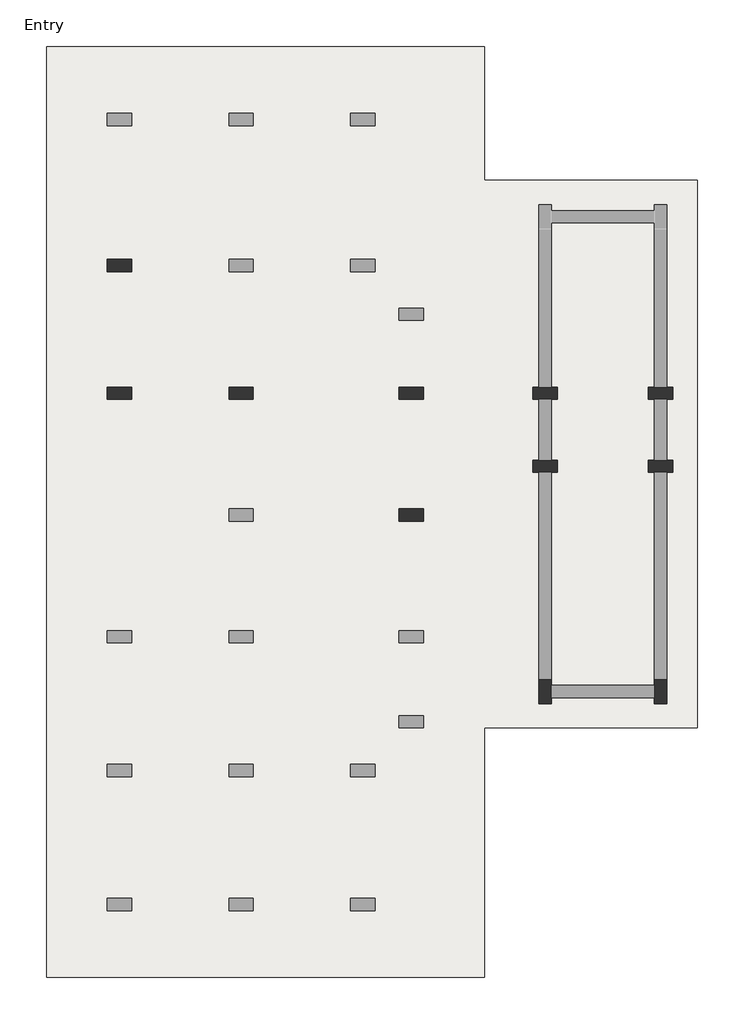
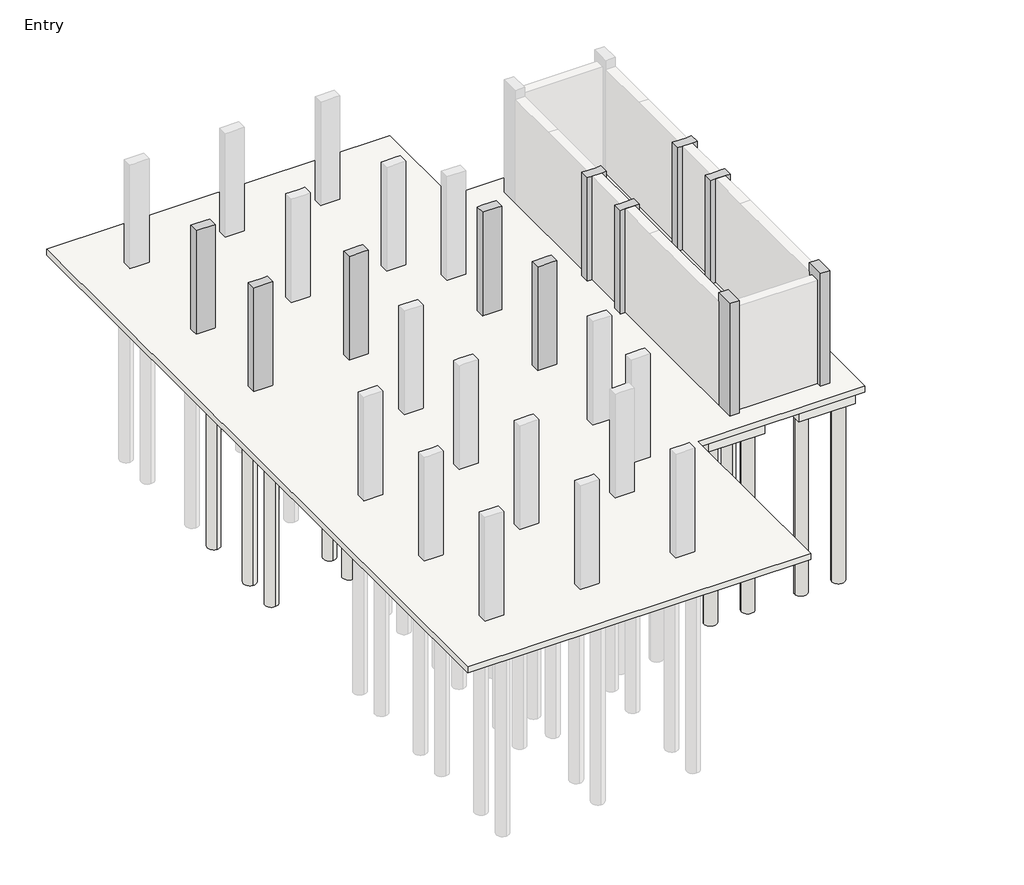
# One storey, part 2 of 3: 32 slabs, 13 columns, 4 footings.
"""IFC4 building model written with IfcOpenShell, lengths in millimetres."""

from ifc_helpers import new_model, si_unit, point, frame, frame_2d, origin, place, context, project, spatial, polyline, circle_curve, trimmed, segment, composite_curve, outline, extrude, faceted_brep, element, save

model = new_model("IFC4")

# Units and contexts
model_context = context("Model", 3, world=origin())
ifc_project = project(units=[si_unit("LENGTHUNIT", "METRE", prefix="MILLI")], contexts=[model_context])

# Site, building, storey
site = spatial("IfcSite", under=ifc_project)
building = spatial("IfcBuilding", under=site)
storey = spatial("IfcBuildingStorey", under=building, Name="Entry", Elevation=0.0)

# Columns
placement = place(None, origin())
element("IfcColumn", 1, ObjectType="Concrete-Rectangular-Column : 12 x 24", at=placement, inside=storey, context=model_context, shape_type="Brep", body=[
    faceted_brep([(-15677.5554735, 10989.3867088, 0.0), (-15067.9554735, 10989.3867088, 0.0), (-15067.9554735, 10684.5867088, 0.0), (-15677.5554735, 10684.5867088, 0.0), (-15677.5554735, 10989.3867088, 3505.2), (-15525.1554735, 10989.3867088, 3505.2), (-15220.3554735, 10989.3867088, 3505.2), (-15067.9554735, 10989.3867088, 3505.2), (-15067.9554735, 10989.3867088, 2895.6), (-15067.9554735, 10684.5867088, 3505.2), (-15067.9554735, 10684.5867088, 2895.6), (-15220.3554735, 10684.5867088, 3505.2), (-15525.1554735, 10684.5867088, 3505.2), (-15677.5554735, 10684.5867088, 3505.2)], [[[0, 1, 2, 3]], [[4, 5, 6, 7, 8, 1, 0]], [[7, 9, 10, 2, 1, 8]], [[9, 11, 12, 13, 3, 2, 10]], [[13, 4, 0, 3]], [[4, 13, 12, 11, 9, 7, 6, 5]]]),
])
element("IfcColumn", 2, ObjectType="Concrete-Rectangular-Column : 12 x 24", at=placement, inside=storey, context=model_context, shape_type="Brep", body=[
    faceted_brep([(-8362.3554735, 7788.9867088, 0.0), (-7752.7554735, 7788.9867088, 0.0), (-7752.7554735, 7484.1867088, 0.0), (-8362.3554735, 7484.1867088, 0.0), (-8362.3554735, 7788.9867088, 3505.2), (-8209.9554735, 7788.9867088, 3505.2), (-7905.1554735, 7788.9867088, 3505.2), (-7752.7554735, 7788.9867088, 3505.2), (-7752.7554735, 7788.9867088, 2895.6), (-8362.3554735, 7788.9867088, 2895.6), (-7752.7554735, 7484.1867088, 3505.2), (-7752.7554735, 7484.1867088, 2895.6), (-7905.1554735, 7484.1867088, 3505.2), (-8209.9554735, 7484.1867088, 3505.2), (-8362.3554735, 7484.1867088, 3505.2), (-8362.3554735, 7484.1867088, 2895.6)], [[[0, 1, 2, 3]], [[4, 5, 6, 7, 8, 1, 0, 9]], [[7, 10, 11, 2, 1, 8]], [[10, 12, 13, 14, 15, 3, 2, 11]], [[14, 4, 9, 0, 3, 15]], [[4, 14, 13, 12, 10, 7, 6, 5]]]),
])
element("IfcColumn", 3, ObjectType="Concrete-Rectangular-Column : 12 x 24", at=placement, inside=storey, context=model_context, shape_type="Brep", body=[
    faceted_brep([(-15677.5554735, 7788.9867088, 0.0), (-15067.9554735, 7788.9867088, 0.0), (-15067.9554735, 7484.1867088, 0.0), (-15677.5554735, 7484.1867088, 0.0), (-15677.5554735, 7788.9867088, 3505.2), (-15525.1554735, 7788.9867088, 3505.2), (-15220.3554735, 7788.9867088, 3505.2), (-15067.9554735, 7788.9867088, 3505.2), (-15067.9554735, 7788.9867088, 2895.6), (-15067.9554735, 7484.1867088, 3505.2), (-15067.9554735, 7484.1867088, 2895.6), (-15677.5554735, 7484.1867088, 3505.2)], [[[0, 1, 2, 3]], [[4, 5, 6, 7, 8, 1, 0]], [[7, 9, 10, 2, 1, 8]], [[9, 11, 3, 2, 10]], [[11, 4, 0, 3]], [[4, 11, 9, 7, 6, 5]]]),
])
element("IfcColumn", 4, ObjectType="Concrete-Rectangular-Column : 12 x 24", at=placement, inside=storey, context=model_context, shape_type="Brep", body=[
    faceted_brep([(-12629.5554735, 7788.9867088, 0.0), (-12019.9554735, 7788.9867088, 0.0), (-12019.9554735, 7484.1867088, 0.0), (-12629.5554735, 7484.1867088, 0.0), (-12629.5554735, 7788.9867088, 3505.2), (-12477.1554735, 7788.9867088, 3505.2), (-12172.3554735, 7788.9867088, 3505.2), (-12019.9554735, 7788.9867088, 3505.2), (-12019.9554735, 7788.9867088, 2895.6), (-12629.5554735, 7788.9867088, 2895.6), (-12019.9554735, 7484.1867088, 3505.2), (-12019.9554735, 7484.1867088, 2895.6), (-12172.3554735, 7484.1867088, 3505.2), (-12477.1554735, 7484.1867088, 3505.2), (-12629.5554735, 7484.1867088, 3505.2), (-12629.5554735, 7484.1867088, 2895.6)], [[[0, 1, 2, 3]], [[4, 5, 6, 7, 8, 1, 0, 9]], [[7, 10, 11, 2, 1, 8]], [[10, 12, 13, 14, 15, 3, 2, 11]], [[14, 4, 9, 0, 3, 15]], [[4, 14, 13, 12, 10, 7, 6, 5]]]),
])
element("IfcColumn", 5, ObjectType="Concrete-Rectangular-Column : 12 x 24", at=placement, inside=storey, context=model_context, shape_type="Brep", body=[
    faceted_brep([(-8362.3554735, 4740.9867088, 0.0), (-7752.7554735, 4740.9867088, 0.0), (-7752.7554735, 4436.1867088, 0.0), (-8362.3554735, 4436.1867088, 0.0), (-8362.3554735, 4740.9867088, 3505.2), (-8209.9554735, 4740.9867088, 3505.2), (-7905.1554735, 4740.9867088, 3505.2), (-7752.7554735, 4740.9867088, 3505.2), (-8362.3554735, 4740.9867088, 2895.6), (-7752.7554735, 4436.1867088, 3505.2), (-7905.1554735, 4436.1867088, 3505.2), (-8209.9554735, 4436.1867088, 3505.2), (-8362.3554735, 4436.1867088, 3505.2), (-8362.3554735, 4436.1867088, 2895.6)], [[[0, 1, 2, 3]], [[4, 5, 6, 7, 1, 0, 8]], [[7, 9, 2, 1]], [[9, 10, 11, 12, 13, 3, 2]], [[12, 4, 8, 0, 3, 13]], [[4, 12, 11, 10, 9, 7, 6, 5]]]),
])
element("IfcColumn", 6, ObjectType="Concrete-Rectangular-Column : 12 x 24", at=placement, inside=storey, context=model_context, shape_type="Brep", body=[
    faceted_brep([(-5009.5554735, 7788.9867088, 0.0), (-4857.1554735, 7788.9867088, 0.0), (-4552.3554735, 7788.9867088, 0.0), (-4399.9554735, 7788.9867088, 0.0), (-4399.9554735, 7484.1867088, 0.0), (-4552.3554735, 7484.1867088, 0.0), (-4857.1554735, 7484.1867088, 0.0), (-5009.5554735, 7484.1867088, 0.0), (-5009.5554735, 7788.9867088, 3505.2), (-4857.1554735, 7788.9867088, 3505.2), (-4552.3554735, 7788.9867088, 3505.2), (-4399.9554735, 7788.9867088, 3505.2), (-4399.9554735, 7484.1867088, 3505.2), (-4552.3554735, 7484.1867088, 3505.2), (-4857.1554735, 7484.1867088, 3505.2), (-5009.5554735, 7484.1867088, 3505.2)], [[[0, 1, 2, 3, 4, 5, 6, 7]], [[3, 2, 1, 0, 8, 9, 10, 11]], [[4, 3, 11, 12]], [[7, 6, 5, 4, 12, 13, 14, 15]], [[0, 7, 15, 8]], [[11, 10, 9, 8, 15, 14, 13, 12]]]),
])
element("IfcColumn", 7, ObjectType="Concrete-Rectangular-Column : 12 x 24", at=placement, inside=storey, context=model_context, shape_type="Brep", body=[
    faceted_brep([(-4399.9554735, 5655.3867088, 0.0), (-4552.3554735, 5655.3867088, 0.0), (-4857.1554735, 5655.3867088, 0.0), (-5009.5554735, 5655.3867088, 0.0), (-5009.5554735, 5960.1867088, 0.0), (-4857.1554735, 5960.1867088, 0.0), (-4552.3554735, 5960.1867088, 0.0), (-4399.9554735, 5960.1867088, 0.0), (-4399.9554735, 5655.3867088, 3505.2), (-4552.3554735, 5655.3867088, 3505.2), (-4857.1554735, 5655.3867088, 3505.2), (-5009.5554735, 5655.3867088, 3505.2), (-5009.5554735, 5960.1867088, 3505.2), (-4857.1554735, 5960.1867088, 3505.2), (-4552.3554735, 5960.1867088, 3505.2), (-4399.9554735, 5960.1867088, 3505.2)], [[[0, 1, 2, 3, 4, 5, 6, 7]], [[3, 2, 1, 0, 8, 9, 10, 11]], [[4, 3, 11, 12]], [[7, 6, 5, 4, 12, 13, 14, 15]], [[0, 7, 15, 8]], [[11, 10, 9, 8, 15, 14, 13, 12]]]),
])
element("IfcColumn", 8, ObjectType="Concrete-Rectangular-Column : 12 x 24", at=placement, inside=storey, context=model_context, shape_type="Brep", body=[
    faceted_brep([(-4552.3554735, 473.7867088, 0.0), (-4552.3554735, 321.3867088, 0.0), (-4552.3554735, 16.5867088, 0.0), (-4552.3554735, -135.8132912, 0.0), (-4857.1554735, -135.8132912, 0.0), (-4857.1554735, 473.7867088, 0.0), (-4552.3554735, 473.7867088, 3810.0), (-4552.3554735, -135.8132912, 3810.0), (-4552.3554735, 473.7867088, 3505.2), (-4857.1554735, -135.8132912, 3810.0), (-4857.1554735, 473.7867088, 3810.0), (-4857.1554735, 473.7867088, 3505.2)], [[[0, 1, 2, 3, 4, 5]], [[6, 7, 3, 2, 1, 0, 8]], [[7, 9, 4, 3]], [[9, 10, 11, 5, 4]], [[10, 6, 8, 0, 5, 11]], [[6, 10, 9, 7]]]),
])
element("IfcColumn", 9, ObjectType="Concrete-Rectangular-Column : 12 x 24", at=placement, inside=storey, context=model_context, shape_type="Brep", body=[
    faceted_brep([(-1656.7554735, 473.7867088, 0.0), (-1656.7554735, -135.8132912, 0.0), (-1961.5554735, -135.8132912, 0.0), (-1961.5554735, 16.5867088, 0.0), (-1961.5554735, 321.3867088, 0.0), (-1961.5554735, 473.7867088, 0.0), (-1656.7554735, 473.7867088, 3810.0), (-1656.7554735, -135.8132912, 3810.0), (-1656.7554735, 473.7867088, 3505.2), (-1961.5554735, -135.8132912, 3810.0), (-1961.5554735, 473.7867088, 3810.0), (-1961.5554735, 473.7867088, 3505.2)], [[[0, 1, 2, 3, 4, 5]], [[6, 7, 1, 0, 8]], [[7, 9, 2, 1]], [[9, 10, 11, 5, 4, 3, 2]], [[10, 6, 8, 0, 5, 11]], [[6, 10, 9, 7]]]),
])
element("IfcColumn", 10, ObjectType="Concrete-Rectangular-Column : 12 x 24", at=placement, inside=storey, context=model_context, shape_type="Brep", body=[
    faceted_brep([(-2113.9554735, 7788.9867088, 0.0), (-1961.5554735, 7788.9867088, 0.0), (-1656.7554735, 7788.9867088, 0.0), (-1504.3554735, 7788.9867088, 0.0), (-1504.3554735, 7484.1867088, 0.0), (-1656.7554735, 7484.1867088, 0.0), (-1961.5554735, 7484.1867088, 0.0), (-2113.9554735, 7484.1867088, 0.0), (-2113.9554735, 7788.9867088, 3505.2), (-1961.5554735, 7788.9867088, 3505.2), (-1656.7554735, 7788.9867088, 3505.2), (-1504.3554735, 7788.9867088, 3505.2), (-1504.3554735, 7484.1867088, 3505.2), (-1656.7554735, 7484.1867088, 3505.2), (-1961.5554735, 7484.1867088, 3505.2), (-2113.9554735, 7484.1867088, 3505.2)], [[[0, 1, 2, 3, 4, 5, 6, 7]], [[3, 2, 1, 0, 8, 9, 10, 11]], [[4, 3, 11, 12]], [[7, 6, 5, 4, 12, 13, 14, 15]], [[0, 7, 15, 8]], [[11, 10, 9, 8, 15, 14, 13, 12]]]),
])
element("IfcColumn", 11, ObjectType="Concrete-Rectangular-Column : 12 x 24", at=placement, inside=storey, context=model_context, shape_type="Brep", body=[
    faceted_brep([(-1504.3554735, 5655.3867088, 0.0), (-1656.7554735, 5655.3867088, 0.0), (-1961.5554735, 5655.3867088, 0.0), (-2113.9554735, 5655.3867088, 0.0), (-2113.9554735, 5960.1867088, 0.0), (-1961.5554735, 5960.1867088, 0.0), (-1656.7554735, 5960.1867088, 0.0), (-1504.3554735, 5960.1867088, 0.0), (-1504.3554735, 5655.3867088, 3505.2), (-1656.7554735, 5655.3867088, 3505.2), (-1961.5554735, 5655.3867088, 3505.2), (-2113.9554735, 5655.3867088, 3505.2), (-2113.9554735, 5960.1867088, 3505.2), (-1961.5554735, 5960.1867088, 3505.2), (-1656.7554735, 5960.1867088, 3505.2), (-1504.3554735, 5960.1867088, 3505.2)], [[[0, 1, 2, 3, 4, 5, 6, 7]], [[3, 2, 1, 0, 8, 9, 10, 11]], [[4, 3, 11, 12]], [[7, 6, 5, 4, 12, 13, 14, 15]], [[0, 7, 15, 8]], [[11, 10, 9, 8, 15, 14, 13, 12]]]),
])
element("IfcColumn", 12, ObjectType="Concrete-Rectangular-Column : 12 x 24", at=placement, inside=storey, context=model_context, shape_type="Brep", body=[
    faceted_brep([(-8362.3554735, 7788.9867088, 0.0), (-7752.7554735, 7788.9867088, 0.0), (-7752.7554735, 7484.1867088, 0.0), (-8362.3554735, 7484.1867088, 0.0), (-8362.3554735, 7788.9867088, 3505.2), (-8209.9554735, 7788.9867088, 3505.2), (-7905.1554735, 7788.9867088, 3505.2), (-7752.7554735, 7788.9867088, 3505.2), (-7752.7554735, 7788.9867088, 2895.6), (-8362.3554735, 7788.9867088, 2895.6), (-7752.7554735, 7484.1867088, 3505.2), (-7752.7554735, 7484.1867088, 2895.6), (-7905.1554735, 7484.1867088, 3505.2), (-8209.9554735, 7484.1867088, 3505.2), (-8362.3554735, 7484.1867088, 3505.2), (-8362.3554735, 7484.1867088, 2895.6)], [[[0, 1, 2, 3]], [[4, 5, 6, 7, 8, 1, 0, 9]], [[7, 10, 11, 2, 1, 8]], [[10, 12, 13, 14, 15, 3, 2, 11]], [[14, 4, 9, 0, 3, 15]], [[4, 14, 13, 12, 10, 7, 6, 5]]]),
])
element("IfcColumn", 13, ObjectType="Concrete-Rectangular-Column : 12 x 24", at=placement, inside=storey, context=model_context, shape_type="Brep", body=[
    faceted_brep([(-12629.5554735, 7788.9867088, 0.0), (-12019.9554735, 7788.9867088, 0.0), (-12019.9554735, 7484.1867088, 0.0), (-12629.5554735, 7484.1867088, 0.0), (-12629.5554735, 7788.9867088, 3505.2), (-12477.1554735, 7788.9867088, 3505.2), (-12172.3554735, 7788.9867088, 3505.2), (-12019.9554735, 7788.9867088, 3505.2), (-12019.9554735, 7788.9867088, 2895.6), (-12629.5554735, 7788.9867088, 2895.6), (-12019.9554735, 7484.1867088, 3505.2), (-12019.9554735, 7484.1867088, 2895.6), (-12172.3554735, 7484.1867088, 3505.2), (-12477.1554735, 7484.1867088, 3505.2), (-12629.5554735, 7484.1867088, 3505.2), (-12629.5554735, 7484.1867088, 2895.6)], [[[0, 1, 2, 3]], [[4, 5, 6, 7, 8, 1, 0, 9]], [[7, 10, 11, 2, 1, 8]], [[10, 12, 13, 14, 15, 3, 2, 11]], [[14, 4, 9, 0, 3, 15]], [[4, 14, 13, 12, 10, 7, 6, 5]]]),
])

# Footings
element("IfcFooting", 14, ObjectType="Bearing Footing - 36\" x 12\"", at=placement, inside=storey, context=model_context, shape_type="Brep", body=[
    faceted_brep([(-1351.9554735, 5655.3867088, -304.8), (-1402.7554735, 5655.3867088, -304.8), (-1402.7554735, 5655.3867088, -203.2), (-1351.9554735, 5655.3867088, -203.2), (-2215.5554735, 5655.3867088, -304.8), (-2266.3554735, 5655.3867088, -304.8), (-2266.3554735, 5655.3867088, -203.2), (-2215.5554735, 5655.3867088, -203.2), (-2266.3554735, 626.1867088, -304.8), (-2266.3554735, 575.3867088, -304.8), (-2266.3554735, 575.3867088, -203.2), (-2266.3554735, 626.1867088, -203.2), (-1351.9554735, 575.3867088, -304.8), (-2215.5554735, 4906.0867088, -304.8), (-1402.7554735, 4906.0867088, -304.8), (-1351.9554735, 575.3867088, -203.2), (-1402.7554735, 4906.0867088, -203.2), (-2215.5554735, 4906.0867088, -203.2)], [[[0, 1, 2, 3]], [[4, 5, 6, 7]], [[5, 8, 9, 10, 11, 6]], [[1, 0, 12, 9, 8, 5, 4, 13, 14]], [[12, 0, 3, 15]], [[1, 14, 16, 2]], [[13, 4, 7, 17]], [[14, 13, 17, 16]], [[9, 12, 15, 10]], [[7, 6, 11, 10, 15, 3, 2, 16, 17]]]),
])
element("IfcFooting", 15, ObjectType="Bearing Footing - 36\" x 12\"", at=placement, inside=storey, context=model_context, shape_type="Brep", body=[
    faceted_brep([(-4552.3554735, -237.4132912, -304.8), (-4552.3554735, -288.2132912, -304.8), (-4552.3554735, -288.2132912, -203.2), (-4552.3554735, -237.4132912, -203.2), (-4552.3554735, 626.1867088, -304.8), (-4552.3554735, 575.3867088, -304.8), (-4552.3554735, 575.3867088, -203.2), (-4552.3554735, 626.1867088, -203.2), (-1961.5554735, -288.2132912, -304.8), (-1961.5554735, -237.4132912, -304.8), (-1961.5554735, -237.4132912, -203.2), (-1961.5554735, -288.2132912, -203.2), (-2266.3554735, 626.1867088, -304.8), (-4247.5554735, 626.1867088, -304.8), (-4247.5554735, 626.1867088, -203.2), (-2266.3554735, 626.1867088, -203.2), (-3803.0554735, -237.4132912, -304.8), (-3803.0554735, 575.3867088, -304.8), (-2266.3554735, 575.3867088, -304.8), (-2710.8554735, 575.3867088, -304.8), (-2710.8554735, -237.4132912, -304.8), (-3803.0554735, 575.3867088, -203.2), (-3803.0554735, -237.4132912, -203.2), (-2266.3554735, 575.3867088, -203.2), (-2710.8554735, 575.3867088, -203.2), (-2710.8554735, -237.4132912, -203.2)], [[[0, 1, 2, 3]], [[4, 5, 6, 7]], [[8, 9, 10, 11]], [[12, 13, 4, 7, 14, 15]], [[8, 1, 0, 16, 17, 5, 4, 13, 12, 18, 19, 20, 9]], [[1, 8, 11, 2]], [[5, 17, 21, 6]], [[16, 0, 3, 22]], [[17, 16, 22, 21]], [[19, 18, 23, 24]], [[20, 19, 24, 25]], [[9, 20, 25, 10]], [[18, 12, 15, 23]], [[7, 6, 21, 22, 3, 2, 11, 10, 25, 24, 23, 15, 14]]]),
])
element("IfcFooting", 16, ObjectType="Bearing Footing - 36\" x 12\"", at=placement, inside=storey, context=model_context, shape_type="SweptSolid", body=[
    extrude(outline(polyline([(-4298.3554735, 5655.3867088), (-4247.5554735, 5655.3867088), (-4247.5554735, 626.1867088), (-4552.3554735, 626.1867088), (-4552.3554735, 575.3867088), (-5161.9554735, 575.3867088), (-5161.9554735, 5655.3867088), (-5111.1554735, 5655.3867088), (-5111.1554735, 4906.0867088), (-4298.3554735, 4906.0867088), (-4298.3554735, 5655.3867088)])), frame((0.0, 0.0, -304.8), z_axis=(0.0, 0.0, 1.0), x_axis=(1.0, 0.0, 0.0)), (0.0, 0.0, 1.0), 101.6),
])
element("IfcFooting", 17, ObjectType="Bearing Footing - 36\" x 12\"", at=placement, inside=storey, context=model_context, shape_type="SweptSolid", body=[
    extrude(outline(polyline([(-1351.9554735, 7484.1867088), (-1351.9554735, 5960.1867088), (-1402.7554735, 5960.1867088), (-1402.7554735, 6709.4867088), (-2215.5554735, 6709.4867088), (-2215.5554735, 5960.1867088), (-2266.3554735, 5960.1867088), (-2266.3554735, 7484.1867088), (-2215.5554735, 7484.1867088), (-2215.5554735, 6734.8867088), (-1402.7554735, 6734.8867088), (-1402.7554735, 7484.1867088), (-1351.9554735, 7484.1867088)])), frame((0.0, 0.0, -304.8), z_axis=(0.0, 0.0, 1.0), x_axis=(1.0, 0.0, 0.0)), (0.0, 0.0, 1.0), 101.6),
])

# Slabs
element("IfcSlab", 18, ObjectType="8\" Foundation Slab", at=placement, inside=storey, context=model_context, shape_type="SweptSolid", body=[
    extrude(outline(polyline([(-6228.7554735, 16323.3867088), (-6228.7554735, 12970.5867088), (-894.7554735, 12970.5867088), (-894.7554735, -745.4132912), (-6228.7554735, -745.4132912), (-6228.7554735, -6993.8132912), (-17201.5554735, -6993.8132912), (-17201.5554735, 16323.3867088), (-6228.7554735, 16323.3867088)])), frame((0.0, 0.0, -203.2), z_axis=(0.0, 0.0, 1.0), x_axis=(1.0, 0.0, 0.0)), (0.0, 0.0, 1.0), 203.2),
])
element("IfcSlab", 19, ObjectType="Pile Cap-2 Pile : 31\"x61\"x35\"", at=placement, inside=storey, context=model_context, shape_type="SweptSolid", body=[
    extrude(outline(polyline([(-15779.1554735, 11738.6867088), (-14966.3554735, 11738.6867088), (-14966.3554735, 9935.2867088), (-15779.1554735, 9935.2867088), (-15779.1554735, 11738.6867088)])), frame((0.0, 0.0, -889.0), z_axis=(0.0, 0.0, 1.0), x_axis=(1.0, 0.0, 0.0)), (0.0, 0.0, 1.0), 685.8),
])
element("IfcSlab", 20, ObjectType="Pile Cap-2 Pile : 31\"x61\"x35\"", at=placement, inside=storey, context=model_context, shape_type="SweptSolid", body=[
    extrude(outline(polyline([(-15779.1554735, 8538.2867088), (-14966.3554735, 8538.2867088), (-14966.3554735, 6734.8867088), (-15779.1554735, 6734.8867088), (-15779.1554735, 8538.2867088)])), frame((0.0, 0.0, -889.0), z_axis=(0.0, 0.0, 1.0), x_axis=(1.0, 0.0, 0.0)), (0.0, 0.0, 1.0), 685.8),
])
element("IfcSlab", 21, ObjectType="Pile Cap-2 Pile : 31\"x61\"x35\"", at=placement, inside=storey, context=model_context, shape_type="SweptSolid", body=[
    extrude(outline(polyline([(-8463.9554735, 5490.2867088), (-7651.1554735, 5490.2867088), (-7651.1554735, 3686.8867088), (-8463.9554735, 3686.8867088), (-8463.9554735, 5490.2867088)])), frame((0.0, 0.0, -889.0), z_axis=(0.0, 0.0, 1.0), x_axis=(1.0, 0.0, 0.0)), (0.0, 0.0, 1.0), 685.8),
])
element("IfcSlab", 22, ObjectType="Pile Cap-2 Pile : 31\"x61\"x35\"", at=placement, inside=storey, context=model_context, shape_type="SweptSolid", body=[
    extrude(outline(polyline([(-8463.9554735, 8538.2867088), (-7651.1554735, 8538.2867088), (-7651.1554735, 6734.8867088), (-8463.9554735, 6734.8867088), (-8463.9554735, 8538.2867088)])), frame((0.0, 0.0, -889.0), z_axis=(0.0, 0.0, 1.0), x_axis=(1.0, 0.0, 0.0)), (0.0, 0.0, 1.0), 685.8),
])
element("IfcSlab", 23, ObjectType="Pile Cap-2 Pile : 31\"x61\"x35\"", at=placement, inside=storey, context=model_context, shape_type="Brep", body=[
    faceted_brep([(-5111.1554735, 8538.2867088, -889.0), (-4298.3554735, 8538.2867088, -889.0), (-4298.3554735, 6734.8867088, -889.0), (-5111.1554735, 6734.8867088, -889.0), (-5111.1554735, 6734.8867088, -203.2), (-5111.1554735, 7788.9867088, -203.2), (-5111.1554735, 8538.2867088, -203.2), (-5111.1554735, 8538.2867088, -304.8), (-4298.3554735, 6734.8867088, -203.2), (-4298.3554735, 8538.2867088, -304.8), (-4298.3554735, 8538.2867088, -203.2), (-4298.3554735, 7788.9867088, -203.2)], [[[0, 1, 2, 3]], [[0, 3, 4, 5, 6, 7]], [[3, 2, 8, 4]], [[2, 1, 9, 10, 11, 8]], [[1, 0, 7, 6, 10, 9]], [[6, 5, 4, 8, 11, 10]]]),
])
element("IfcSlab", 24, ObjectType="Pile Cap-2 Pile : 31\"x61\"x35\"", at=placement, inside=storey, context=model_context, shape_type="Brep", body=[
    faceted_brep([(-2215.5554735, 8538.2867088, -889.0), (-1402.7554735, 8538.2867088, -889.0), (-1402.7554735, 6734.8867088, -889.0), (-2215.5554735, 6734.8867088, -889.0), (-2215.5554735, 6734.8867088, -304.8), (-2215.5554735, 6734.8867088, -203.2), (-2215.5554735, 7484.1867088, -203.2), (-2215.5554735, 7788.9867088, -203.2), (-2215.5554735, 8538.2867088, -203.2), (-2215.5554735, 8538.2867088, -304.8), (-1402.7554735, 6734.8867088, -304.8), (-1402.7554735, 6734.8867088, -203.2), (-1402.7554735, 8538.2867088, -304.8), (-1402.7554735, 8538.2867088, -203.2), (-1402.7554735, 7788.9867088, -203.2), (-1402.7554735, 7484.1867088, -203.2)], [[[0, 1, 2, 3]], [[0, 3, 4, 5, 6, 7, 8, 9]], [[3, 2, 10, 11, 5, 4]], [[2, 1, 12, 13, 14, 15, 11, 10]], [[1, 0, 9, 8, 13, 12]], [[8, 7, 6, 5, 11, 15, 14, 13]]]),
])
element("IfcSlab", 25, ObjectType="Pile Cap-2 Pile : 31\"x61\"x35\"", at=placement, inside=storey, context=model_context, shape_type="Brep", body=[
    faceted_brep([(-4298.3554735, 4906.0867088, -889.0), (-5111.1554735, 4906.0867088, -889.0), (-5111.1554735, 6709.4867088, -889.0), (-4298.3554735, 6709.4867088, -889.0), (-4298.3554735, 6709.4867088, -203.2), (-4298.3554735, 5655.3867088, -203.2), (-4298.3554735, 4906.0867088, -203.2), (-4298.3554735, 4906.0867088, -304.8), (-5111.1554735, 6709.4867088, -203.2), (-5111.1554735, 4906.0867088, -304.8), (-5111.1554735, 4906.0867088, -203.2), (-5111.1554735, 5655.3867088, -203.2)], [[[0, 1, 2, 3]], [[0, 3, 4, 5, 6, 7]], [[3, 2, 8, 4]], [[2, 1, 9, 10, 11, 8]], [[1, 0, 7, 6, 10, 9]], [[6, 5, 4, 8, 11, 10]]]),
])
element("IfcSlab", 26, ObjectType="Pile Cap-2 Pile : 31\"x61\"x35\"", at=placement, inside=storey, context=model_context, shape_type="Brep", body=[
    faceted_brep([(-1402.7554735, 4906.0867088, -889.0), (-2215.5554735, 4906.0867088, -889.0), (-2215.5554735, 6709.4867088, -889.0), (-1402.7554735, 6709.4867088, -889.0), (-1402.7554735, 6709.4867088, -304.8), (-1402.7554735, 6709.4867088, -203.2), (-1402.7554735, 5960.1867088, -203.2), (-1402.7554735, 5655.3867088, -203.2), (-1402.7554735, 4906.0867088, -203.2), (-1402.7554735, 4906.0867088, -304.8), (-2215.5554735, 6709.4867088, -304.8), (-2215.5554735, 6709.4867088, -203.2), (-2215.5554735, 4906.0867088, -304.8), (-2215.5554735, 4906.0867088, -203.2), (-2215.5554735, 5655.3867088, -203.2), (-2215.5554735, 5960.1867088, -203.2)], [[[0, 1, 2, 3]], [[0, 3, 4, 5, 6, 7, 8, 9]], [[3, 2, 10, 11, 5, 4]], [[2, 1, 12, 13, 14, 15, 11, 10]], [[1, 0, 9, 8, 13, 12]], [[8, 7, 6, 5, 11, 15, 14, 13]]]),
])
element("IfcSlab", 27, ObjectType="Pile Cap-2 Pile : 31\"x61\"x35\"", at=placement, inside=storey, context=model_context, shape_type="Brep", body=[
    faceted_brep([(-3803.0554735, 575.3867088, -889.0), (-3803.0554735, -237.4132912, -889.0), (-5606.4554735, -237.4132912, -889.0), (-5606.4554735, 575.3867088, -889.0), (-5606.4554735, 575.3867088, -203.2), (-5161.9554735, 575.3867088, -203.2), (-4552.3554735, 575.3867088, -203.2), (-3803.0554735, 575.3867088, -203.2), (-3803.0554735, 575.3867088, -304.8), (-5606.4554735, -237.4132912, -203.2), (-3803.0554735, -237.4132912, -304.8), (-3803.0554735, -237.4132912, -203.2), (-4552.3554735, -237.4132912, -203.2)], [[[0, 1, 2, 3]], [[0, 3, 4, 5, 6, 7, 8]], [[3, 2, 9, 4]], [[2, 1, 10, 11, 12, 9]], [[1, 0, 8, 7, 11, 10]], [[7, 6, 5, 4, 9, 12, 11]]]),
])
element("IfcSlab", 28, ObjectType="Pile Cap-2 Pile : 31\"x61\"x35\"", at=placement, inside=storey, context=model_context, shape_type="Brep", body=[
    faceted_brep([(-907.4554735, 575.3867088, -889.0), (-907.4554735, -237.4132912, -889.0), (-2710.8554735, -237.4132912, -889.0), (-2710.8554735, 575.3867088, -889.0), (-2710.8554735, 575.3867088, -304.8), (-2710.8554735, 575.3867088, -203.2), (-2266.3554735, 575.3867088, -203.2), (-1351.9554735, 575.3867088, -203.2), (-907.4554735, 575.3867088, -203.2), (-2710.8554735, -237.4132912, -304.8), (-2710.8554735, -237.4132912, -203.2), (-907.4554735, -237.4132912, -203.2), (-1961.5554735, -237.4132912, -203.2)], [[[0, 1, 2, 3]], [[0, 3, 4, 5, 6, 7, 8]], [[3, 2, 9, 10, 5, 4]], [[2, 1, 11, 12, 10, 9]], [[1, 0, 8, 11]], [[8, 7, 6, 5, 10, 12, 11]]]),
])
element("IfcSlab", 29, ObjectType="Pile Cap-4 Pile : 72\"x72\"x35\"", at=placement, inside=storey, context=model_context, shape_type="SweptSolid", body=[
    extrude(outline(polyline([(-13239.1554735, 8550.9867088), (-11410.3554735, 8550.9867088), (-11410.3554735, 6722.1867088), (-13239.1554735, 6722.1867088), (-13239.1554735, 8550.9867088)])), frame((0.0, 0.0, -889.0), z_axis=(0.0, 0.0, 1.0), x_axis=(1.0, 0.0, 0.0)), (0.0, 0.0, 1.0), 685.8),
])
element("IfcSlab", 30, ObjectType="Pile-Steel Pipe : 16\" Diameter", at=placement, inside=storey, context=model_context, shape_type="SweptSolid", body=[
    extrude(outline(composite_curve([segment(trimmed(circle_curve(frame_2d((-12858.1554735, 7103.1867088)), 203.2), [point((-12858.1554735, 6899.9867088))], [point((-12858.1554735, 7306.3867088))], False, "CARTESIAN"), True, "CONTINUOUS"), segment(trimmed(circle_curve(frame_2d((-12858.1554735, 7103.1867088)), 203.2), [point((-12858.1554735, 7306.3867088))], [point((-12858.1554735, 6899.9867088))], False, "CARTESIAN"), True, "CONTINUOUS")], self_intersect=False)), frame((0.0, 0.0, -6985.0), z_axis=(0.0, 0.0, 1.0), x_axis=(1.0, 0.0, 0.0)), (0.0, 0.0, 1.0), 6096.0),
])
element("IfcSlab", 31, ObjectType="Pile-Steel Pipe : 16\" Diameter", at=placement, inside=storey, context=model_context, shape_type="SweptSolid", body=[
    extrude(outline(composite_curve([segment(trimmed(circle_curve(frame_2d((-11791.3554735, 7103.1867088)), 203.2), [point((-11791.3554735, 6899.9867088))], [point((-11791.3554735, 7306.3867088))], False, "CARTESIAN"), True, "CONTINUOUS"), segment(trimmed(circle_curve(frame_2d((-11791.3554735, 7103.1867088)), 203.2), [point((-11791.3554735, 7306.3867088))], [point((-11791.3554735, 6899.9867088))], False, "CARTESIAN"), True, "CONTINUOUS")], self_intersect=False)), frame((0.0, 0.0, -6985.0), z_axis=(0.0, 0.0, 1.0), x_axis=(1.0, 0.0, 0.0)), (0.0, 0.0, 1.0), 6096.0),
])
element("IfcSlab", 32, ObjectType="Pile-Steel Pipe : 16\" Diameter", at=placement, inside=storey, context=model_context, shape_type="SweptSolid", body=[
    extrude(outline(composite_curve([segment(trimmed(circle_curve(frame_2d((-12858.1554735, 8169.9867088)), 203.2), [point((-12858.1554735, 7966.7867088))], [point((-12858.1554735, 8373.1867088))], False, "CARTESIAN"), True, "CONTINUOUS"), segment(trimmed(circle_curve(frame_2d((-12858.1554735, 8169.9867088)), 203.2), [point((-12858.1554735, 8373.1867088))], [point((-12858.1554735, 7966.7867088))], False, "CARTESIAN"), True, "CONTINUOUS")], self_intersect=False)), frame((0.0, 0.0, -6985.0), z_axis=(0.0, 0.0, 1.0), x_axis=(1.0, 0.0, 0.0)), (0.0, 0.0, 1.0), 6096.0),
])
element("IfcSlab", 33, ObjectType="Pile-Steel Pipe : 16\" Diameter", at=placement, inside=storey, context=model_context, shape_type="SweptSolid", body=[
    extrude(outline(composite_curve([segment(trimmed(circle_curve(frame_2d((-11791.3554735, 4055.1867088)), 203.2), [point((-11791.3554735, 3851.9867088))], [point((-11791.3554735, 4258.3867088))], False, "CARTESIAN"), True, "CONTINUOUS"), segment(trimmed(circle_curve(frame_2d((-11791.3554735, 4055.1867088)), 203.2), [point((-11791.3554735, 4258.3867088))], [point((-11791.3554735, 3851.9867088))], False, "CARTESIAN"), True, "CONTINUOUS")], self_intersect=False)), frame((0.0, 0.0, -6985.0), z_axis=(0.0, 0.0, 1.0), x_axis=(1.0, 0.0, 0.0)), (0.0, 0.0, 1.0), 6096.0),
])
element("IfcSlab", 34, ObjectType="Pile-Steel Pipe : 16\" Diameter", at=placement, inside=storey, context=model_context, shape_type="SweptSolid", body=[
    extrude(outline(composite_curve([segment(trimmed(circle_curve(frame_2d((-11791.3554735, 5121.9867088)), 203.2), [point((-11791.3554735, 4918.7867088))], [point((-11791.3554735, 5325.1867088))], False, "CARTESIAN"), True, "CONTINUOUS"), segment(trimmed(circle_curve(frame_2d((-11791.3554735, 5121.9867088)), 203.2), [point((-11791.3554735, 5325.1867088))], [point((-11791.3554735, 4918.7867088))], False, "CARTESIAN"), True, "CONTINUOUS")], self_intersect=False)), frame((0.0, 0.0, -6985.0), z_axis=(0.0, 0.0, 1.0), x_axis=(1.0, 0.0, 0.0)), (0.0, 0.0, 1.0), 6096.0),
])
element("IfcSlab", 35, ObjectType="Pile-Steel Pipe : 16\" Diameter", at=placement, inside=storey, context=model_context, shape_type="SweptSolid", body=[
    extrude(outline(composite_curve([segment(trimmed(circle_curve(frame_2d((-15372.7554735, 10240.0867088)), 203.2), [point((-15372.7554735, 10036.8867088))], [point((-15372.7554735, 10443.2867088))], False, "CARTESIAN"), True, "CONTINUOUS"), segment(trimmed(circle_curve(frame_2d((-15372.7554735, 10240.0867088)), 203.2), [point((-15372.7554735, 10443.2867088))], [point((-15372.7554735, 10036.8867088))], False, "CARTESIAN"), True, "CONTINUOUS")], self_intersect=False)), frame((0.0, 0.0, -6985.0), z_axis=(0.0, 0.0, 1.0), x_axis=(1.0, 0.0, 0.0)), (0.0, 0.0, 1.0), 6096.0),
])
element("IfcSlab", 36, ObjectType="Pile-Steel Pipe : 16\" Diameter", at=placement, inside=storey, context=model_context, shape_type="SweptSolid", body=[
    extrude(outline(composite_curve([segment(trimmed(circle_curve(frame_2d((-15372.7554735, 8233.4867088)), 203.2), [point((-15372.7554735, 8030.2867088))], [point((-15372.7554735, 8436.6867088))], False, "CARTESIAN"), True, "CONTINUOUS"), segment(trimmed(circle_curve(frame_2d((-15372.7554735, 8233.4867088)), 203.2), [point((-15372.7554735, 8436.6867088))], [point((-15372.7554735, 8030.2867088))], False, "CARTESIAN"), True, "CONTINUOUS")], self_intersect=False)), frame((0.0, 0.0, -6985.0), z_axis=(0.0, 0.0, 1.0), x_axis=(1.0, 0.0, 0.0)), (0.0, 0.0, 1.0), 6096.0),
])
element("IfcSlab", 37, ObjectType="Pile-Steel Pipe : 16\" Diameter", at=placement, inside=storey, context=model_context, shape_type="SweptSolid", body=[
    extrude(outline(composite_curve([segment(trimmed(circle_curve(frame_2d((-15372.7554735, 7039.6867088)), 203.2), [point((-15372.7554735, 6836.4867088))], [point((-15372.7554735, 7242.8867088))], False, "CARTESIAN"), True, "CONTINUOUS"), segment(trimmed(circle_curve(frame_2d((-15372.7554735, 7039.6867088)), 203.2), [point((-15372.7554735, 7242.8867088))], [point((-15372.7554735, 6836.4867088))], False, "CARTESIAN"), True, "CONTINUOUS")], self_intersect=False)), frame((0.0, 0.0, -6985.0), z_axis=(0.0, 0.0, 1.0), x_axis=(1.0, 0.0, 0.0)), (0.0, 0.0, 1.0), 6096.0),
])
element("IfcSlab", 38, ObjectType="Pile-Steel Pipe : 16\" Diameter", at=placement, inside=storey, context=model_context, shape_type="SweptSolid", body=[
    extrude(outline(composite_curve([segment(trimmed(circle_curve(frame_2d((-8057.5554735, 5185.4867088)), 203.2), [point((-8057.5554735, 4982.2867088))], [point((-8057.5554735, 5388.6867088))], False, "CARTESIAN"), True, "CONTINUOUS"), segment(trimmed(circle_curve(frame_2d((-8057.5554735, 5185.4867088)), 203.2), [point((-8057.5554735, 5388.6867088))], [point((-8057.5554735, 4982.2867088))], False, "CARTESIAN"), True, "CONTINUOUS")], self_intersect=False)), frame((0.0, 0.0, -6985.0), z_axis=(0.0, 0.0, 1.0), x_axis=(1.0, 0.0, 0.0)), (0.0, 0.0, 1.0), 6096.0),
])
element("IfcSlab", 39, ObjectType="Pile-Steel Pipe : 16\" Diameter", at=placement, inside=storey, context=model_context, shape_type="SweptSolid", body=[
    extrude(outline(composite_curve([segment(trimmed(circle_curve(frame_2d((-8057.5554735, 7039.6867088)), 203.2), [point((-8057.5554735, 6836.4867088))], [point((-8057.5554735, 7242.8867088))], False, "CARTESIAN"), True, "CONTINUOUS"), segment(trimmed(circle_curve(frame_2d((-8057.5554735, 7039.6867088)), 203.2), [point((-8057.5554735, 7242.8867088))], [point((-8057.5554735, 6836.4867088))], False, "CARTESIAN"), True, "CONTINUOUS")], self_intersect=False)), frame((0.0, 0.0, -6985.0), z_axis=(0.0, 0.0, 1.0), x_axis=(1.0, 0.0, 0.0)), (0.0, 0.0, 1.0), 6096.0),
])
element("IfcSlab", 40, ObjectType="Pile-Steel Pipe : 16\" Diameter", at=placement, inside=storey, context=model_context, shape_type="SweptSolid", body=[
    extrude(outline(composite_curve([segment(trimmed(circle_curve(frame_2d((-4704.7554735, 7039.6867088)), 203.2), [point((-4704.7554735, 6836.4867088))], [point((-4704.7554735, 7242.8867088))], False, "CARTESIAN"), True, "CONTINUOUS"), segment(trimmed(circle_curve(frame_2d((-4704.7554735, 7039.6867088)), 203.2), [point((-4704.7554735, 7242.8867088))], [point((-4704.7554735, 6836.4867088))], False, "CARTESIAN"), True, "CONTINUOUS")], self_intersect=False)), frame((0.0, 0.0, -6985.0), z_axis=(0.0, 0.0, 1.0), x_axis=(1.0, 0.0, 0.0)), (0.0, 0.0, 1.0), 6096.0),
])
element("IfcSlab", 41, ObjectType="Pile-Steel Pipe : 16\" Diameter", at=placement, inside=storey, context=model_context, shape_type="SweptSolid", body=[
    extrude(outline(composite_curve([segment(trimmed(circle_curve(frame_2d((-1809.1554735, 7039.6867088)), 203.2), [point((-1809.1554735, 6836.4867088))], [point((-1809.1554735, 7242.8867088))], False, "CARTESIAN"), True, "CONTINUOUS"), segment(trimmed(circle_curve(frame_2d((-1809.1554735, 7039.6867088)), 203.2), [point((-1809.1554735, 7242.8867088))], [point((-1809.1554735, 6836.4867088))], False, "CARTESIAN"), True, "CONTINUOUS")], self_intersect=False)), frame((0.0, 0.0, -6985.0), z_axis=(0.0, 0.0, 1.0), x_axis=(1.0, 0.0, 0.0)), (0.0, 0.0, 1.0), 6096.0),
])
element("IfcSlab", 42, ObjectType="Pile-Steel Pipe : 16\" Diameter", at=placement, inside=storey, context=model_context, shape_type="SweptSolid", body=[
    extrude(outline(composite_curve([segment(trimmed(circle_curve(frame_2d((-4704.7554735, 5210.8867088)), 203.2), [point((-4704.7554735, 5414.0867088))], [point((-4704.7554735, 5007.6867088))], False, "CARTESIAN"), True, "CONTINUOUS"), segment(trimmed(circle_curve(frame_2d((-4704.7554735, 5210.8867088)), 203.2), [point((-4704.7554735, 5007.6867088))], [point((-4704.7554735, 5414.0867088))], False, "CARTESIAN"), True, "CONTINUOUS")], self_intersect=False)), frame((0.0, 0.0, -6985.0), z_axis=(0.0, 0.0, 1.0), x_axis=(1.0, 0.0, 0.0)), (0.0, 0.0, 1.0), 6096.0),
])
element("IfcSlab", 43, ObjectType="Pile-Steel Pipe : 16\" Diameter", at=placement, inside=storey, context=model_context, shape_type="SweptSolid", body=[
    extrude(outline(composite_curve([segment(trimmed(circle_curve(frame_2d((-4704.7554735, 6404.6867088)), 203.2), [point((-4704.7554735, 6607.8867088))], [point((-4704.7554735, 6201.4867088))], False, "CARTESIAN"), True, "CONTINUOUS"), segment(trimmed(circle_curve(frame_2d((-4704.7554735, 6404.6867088)), 203.2), [point((-4704.7554735, 6201.4867088))], [point((-4704.7554735, 6607.8867088))], False, "CARTESIAN"), True, "CONTINUOUS")], self_intersect=False)), frame((0.0, 0.0, -6985.0), z_axis=(0.0, 0.0, 1.0), x_axis=(1.0, 0.0, 0.0)), (0.0, 0.0, 1.0), 6096.0),
])
element("IfcSlab", 44, ObjectType="Pile-Steel Pipe : 16\" Diameter", at=placement, inside=storey, context=model_context, shape_type="SweptSolid", body=[
    extrude(outline(composite_curve([segment(trimmed(circle_curve(frame_2d((-1809.1554735, 5210.8867088)), 203.2), [point((-1809.1554735, 5414.0867088))], [point((-1809.1554735, 5007.6867088))], False, "CARTESIAN"), True, "CONTINUOUS"), segment(trimmed(circle_curve(frame_2d((-1809.1554735, 5210.8867088)), 203.2), [point((-1809.1554735, 5007.6867088))], [point((-1809.1554735, 5414.0867088))], False, "CARTESIAN"), True, "CONTINUOUS")], self_intersect=False)), frame((0.0, 0.0, -6985.0), z_axis=(0.0, 0.0, 1.0), x_axis=(1.0, 0.0, 0.0)), (0.0, 0.0, 1.0), 6096.0),
])
element("IfcSlab", 45, ObjectType="Pile-Steel Pipe : 16\" Diameter", at=placement, inside=storey, context=model_context, shape_type="SweptSolid", body=[
    extrude(outline(composite_curve([segment(trimmed(circle_curve(frame_2d((-1809.1554735, 6404.6867088)), 203.2), [point((-1809.1554735, 6607.8867088))], [point((-1809.1554735, 6201.4867088))], False, "CARTESIAN"), True, "CONTINUOUS"), segment(trimmed(circle_curve(frame_2d((-1809.1554735, 6404.6867088)), 203.2), [point((-1809.1554735, 6201.4867088))], [point((-1809.1554735, 6607.8867088))], False, "CARTESIAN"), True, "CONTINUOUS")], self_intersect=False)), frame((0.0, 0.0, -6985.0), z_axis=(0.0, 0.0, 1.0), x_axis=(1.0, 0.0, 0.0)), (0.0, 0.0, 1.0), 6096.0),
])
element("IfcSlab", 46, ObjectType="Pile-Steel Pipe : 16\" Diameter", at=placement, inside=storey, context=model_context, shape_type="SweptSolid", body=[
    extrude(outline(composite_curve([segment(trimmed(circle_curve(frame_2d((-4107.8554735, 168.9867088)), 203.2), [point((-4311.0554735, 168.9867088))], [point((-3904.6554735, 168.9867088))], False, "CARTESIAN"), True, "CONTINUOUS"), segment(trimmed(circle_curve(frame_2d((-4107.8554735, 168.9867088)), 203.2), [point((-3904.6554735, 168.9867088))], [point((-4311.0554735, 168.9867088))], False, "CARTESIAN"), True, "CONTINUOUS")], self_intersect=False)), frame((0.0, 0.0, -6985.0), z_axis=(0.0, 0.0, 1.0), x_axis=(1.0, 0.0, 0.0)), (0.0, 0.0, 1.0), 6096.0),
])
element("IfcSlab", 47, ObjectType="Pile-Steel Pipe : 16\" Diameter", at=placement, inside=storey, context=model_context, shape_type="SweptSolid", body=[
    extrude(outline(composite_curve([segment(trimmed(circle_curve(frame_2d((-5301.6554735, 168.9867088)), 203.2), [point((-5504.8554735, 168.9867088))], [point((-5098.4554735, 168.9867088))], False, "CARTESIAN"), True, "CONTINUOUS"), segment(trimmed(circle_curve(frame_2d((-5301.6554735, 168.9867088)), 203.2), [point((-5098.4554735, 168.9867088))], [point((-5504.8554735, 168.9867088))], False, "CARTESIAN"), True, "CONTINUOUS")], self_intersect=False)), frame((0.0, 0.0, -6985.0), z_axis=(0.0, 0.0, 1.0), x_axis=(1.0, 0.0, 0.0)), (0.0, 0.0, 1.0), 6096.0),
])
element("IfcSlab", 48, ObjectType="Pile-Steel Pipe : 16\" Diameter", at=placement, inside=storey, context=model_context, shape_type="SweptSolid", body=[
    extrude(outline(composite_curve([segment(trimmed(circle_curve(frame_2d((-1212.2554735, 168.9867088)), 203.2), [point((-1415.4554735, 168.9867088))], [point((-1009.0554735, 168.9867088))], False, "CARTESIAN"), True, "CONTINUOUS"), segment(trimmed(circle_curve(frame_2d((-1212.2554735, 168.9867088)), 203.2), [point((-1009.0554735, 168.9867088))], [point((-1415.4554735, 168.9867088))], False, "CARTESIAN"), True, "CONTINUOUS")], self_intersect=False)), frame((0.0, 0.0, -6985.0), z_axis=(0.0, 0.0, 1.0), x_axis=(1.0, 0.0, 0.0)), (0.0, 0.0, 1.0), 6096.0),
])
element("IfcSlab", 49, ObjectType="Pile-Steel Pipe : 16\" Diameter", at=placement, inside=storey, context=model_context, shape_type="SweptSolid", body=[
    extrude(outline(composite_curve([segment(trimmed(circle_curve(frame_2d((-2406.0554735, 168.9867088)), 203.2), [point((-2609.2554735, 168.9867088))], [point((-2202.8554735, 168.9867088))], False, "CARTESIAN"), True, "CONTINUOUS"), segment(trimmed(circle_curve(frame_2d((-2406.0554735, 168.9867088)), 203.2), [point((-2202.8554735, 168.9867088))], [point((-2609.2554735, 168.9867088))], False, "CARTESIAN"), True, "CONTINUOUS")], self_intersect=False)), frame((0.0, 0.0, -6985.0), z_axis=(0.0, 0.0, 1.0), x_axis=(1.0, 0.0, 0.0)), (0.0, 0.0, 1.0), 6096.0),
])

save(model, "model.ifc")
